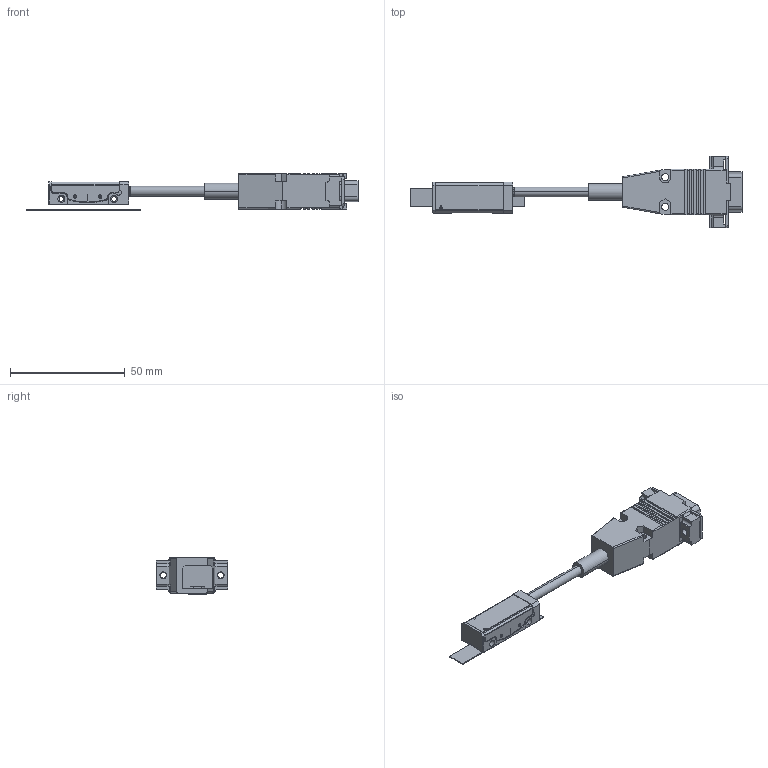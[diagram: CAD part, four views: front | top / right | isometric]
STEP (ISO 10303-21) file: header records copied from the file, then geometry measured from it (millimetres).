
FILE_DESCRIPTION (( 'STEP AP214' ), '1' );
FILE_NAME ('Q101BZ3020-L05-DB09 黍杅芛.STEP', '2024-09-18T01:25:08', ( 'dayu' ), ( '' ), 'SwSTEP 2.0', 'SolidWorks 2020', '' );
FILE_SCHEMA (( 'AUTOMOTIVE_DESIGN' ));
Length unit declared in the file: millimetre
Products named in the file (1): Q101BZ3020-L05-DB09 黍杅芛
Bounding box: 144.92 x 31 x 16.15 mm (x, y, z)
Volume: 15030.9 mm3; surface area: 12412.3 mm2
Topology: 5 solids, 5 shells, 583 faces, 1560 edges, 996 vertices
Faces by surface type: plane 307, cylinder 203, cone 49, sphere 18, torus 6
Entity records: 24397 total; most frequent: DIRECTION 3182, CARTESIAN_POINT 3169, ORIENTED_EDGE 3028, EDGE_CURVE 1514, AXIS2_PLACEMENT_3D 1107, VERTEX_POINT 978, VECTOR 968, LINE 968
